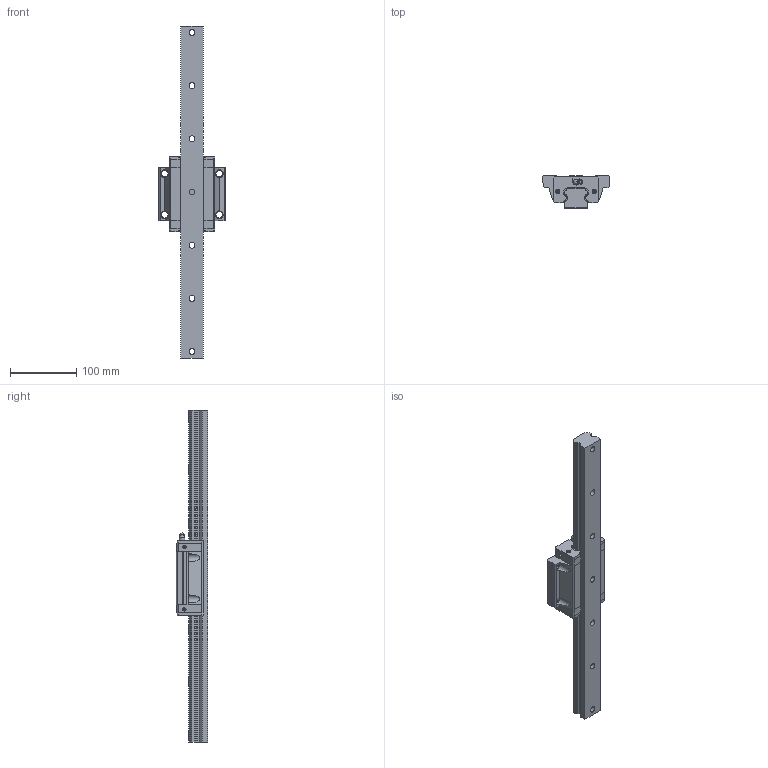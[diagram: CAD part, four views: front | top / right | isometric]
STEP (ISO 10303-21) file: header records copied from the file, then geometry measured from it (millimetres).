
FILE_DESCRIPTION(/* description */ ('STEP AP203'),/* implementation_level */ '2;1');
FILE_NAME(/* name */ 'D:\FOLDER Tomasz Michałek\pliki z pulpitu\Katalogi inne\Technika liniowa\NATECH\Modele 3D\NATECH linear block 3D drawing\NGW\NGW35CC\NGW35CC1R500.stp',/* time_stamp */ '2021-01-21T17:01:14+01:00',/* author */ ('dnia_tomasz_tm'),/* organization */ ('IT'),/* preprocessor_version */ 'ST-DEVELOPER v16.13',/* originating_system */ 'Autodesk Inventor 2018',/* authorisation */ '');
FILE_SCHEMA (('AUTOMOTIVE_DESIGN { 1 0 10303 214 3 1 1 }'));
Length unit declared in the file: millimetre
Products named in the file (3): NGW35CC1R500ZACI; GHW35CC1R500ZACI_1_GHW35CC; GHW35CC1R500ZACI_2_GHW35CC
Assembly tree (2 placements, depth 2):
  NGW35CC1R500ZACI
    GHW35CC1R500ZACI_1_GHW35CC
    GHW35CC1R500ZACI_2_GHW35CC
Bounding box: 100 x 48 x 500 mm (x, y, z)
Volume: 706356.2 mm3; surface area: 131060.2 mm2
Topology: 7 solids, 7 shells, 426 faces, 1114 edges, 735 vertices
Faces by surface type: plane 324, cylinder 68, cone 19, torus 9, sphere 5, bspline 1
Full cylindrical faces by diameter (mm): 0.656 x4, 4.5 x1, 4.86 x6, 5.32 x4, 6.65 x4, 8 x1, 9 x7, 10 x4, 12 x4, 14 x7
Entity records: 12772 total; most frequent: CARTESIAN_POINT 2308, ORIENTED_EDGE 2102, DIRECTION 2096, EDGE_CURVE 1051, LINE 792, VECTOR 792, VERTEX_POINT 726, AXIS2_PLACEMENT_3D 652
